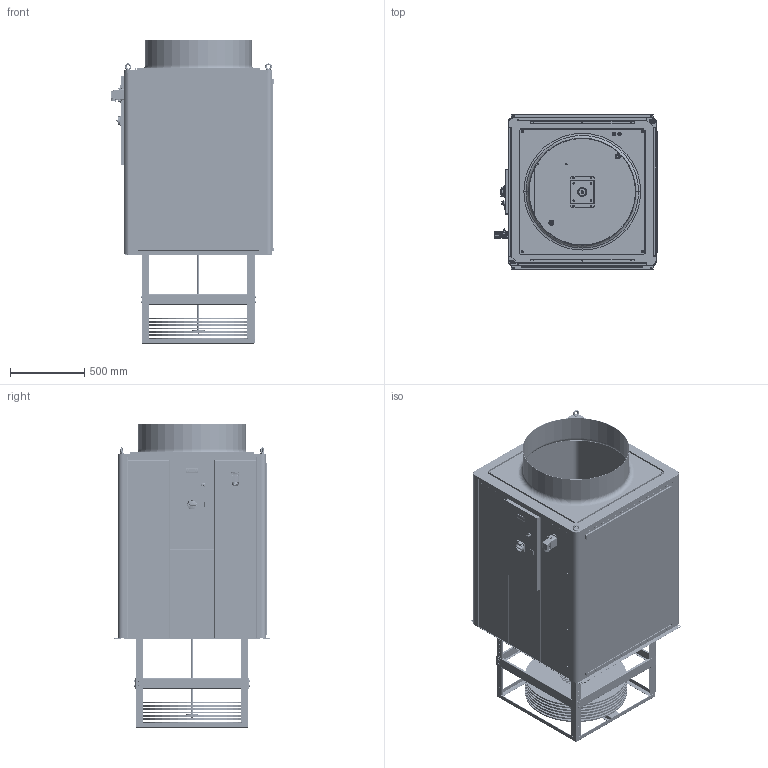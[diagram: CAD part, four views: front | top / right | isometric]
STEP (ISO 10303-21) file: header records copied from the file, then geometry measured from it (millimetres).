
FILE_DESCRIPTION (( 'STEP AP203' ), '1' );
FILE_NAME ('ECIK-350_EVAP_FLAT_R513A_REV00.STEP', '2026-03-24T12:48:25', ( '' ), ( '' ), 'SwSTEP 2.0', 'SolidWorks 2023', '' );
FILE_SCHEMA (( 'CONFIG_CONTROL_DESIGN' ));
Length unit declared in the file: millimetre
Products named in the file (59): VR-2D-00050_000; CR-K6-00005_001A; ICQ-10-__________2-1_1; 10J-8HP-FD-__5P-___________1; TE-EL-00007 - EW_971_230V.STEP; CR-K6-00003_001; 10J-8HP-ICQ-4HP-ICQ-3HP-1P-FB1.5p-____1.5P______-DCF-BK3P-_____1; VR-K9-00001_000; VR-K8-00002_000; 10J-8HP-ICQ-4HP-FD-____1mm-FB-KG-_____1; EV-AC-00038_000_FIGURINO; CR-K6-00005_001; CR-K6-00005_001C; 16800106.STEP_1; VR-K6-00004_001; 10J-8HP-ICQ-4HP-ICQ-3HP-1P-FB1.5p-_____1; ICQ-10-_______1; Gabbia telescopica ECIK 200-300-350 L=760_CONTRATTA; 10J-8HP-ICQ-4HP-ICQ-3HP-1P-1.5HP-_____________1; Tappo quadro elettrico_BK; CO-EL-00129; 10J-8HP-ICQ-4HP-ICQ-3HP-1P-______-1.5HP_1; 19.05____x55________.STEP_1; 25800359-______________x240__-____ ICQ-12-____.STEP; VR-K6-00001_001; ICQ-12J; ____710_________1; Parte1^ECIK-350   ICQ-12J; ____________2.0_______1; 25800360-______-304.STEP; DED965FB-6F17-44D8-8B5E-7FBD67AD56EC_3_BK; eyebolts gb_GB_FASTENER_SCREWS_FRS M10-N_1; plain washer chamfered grade a_iso_Washer ISO 7090 - 8; 10J-8HP-ICQ-4HP-ICQ-3HP-1P-FB1.5p-____2P______-DCF-BK3P-____ - ____ (2)_1; SELETTORE_NERO_BK; 8HP-FD-20________-IIII-III-II-FB-KG-_________1; 10J-8HP-ICQ-4HP-ICQ-3HP-1P-__________-1.5HP_1; hex nut style 1 gradeab_iso_ISO - 4032 - M8 - W - N; PG11_PARTE; VR-K6-00003_001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
Assembly tree (110 placements, depth 5):
  ECIK-350_EVAP_FLAT_R513A_REV00
    ICQ-12J
      10J-8HP-FD-__5P-___________1
        10J-8HP-FD-__5P________-500_____1
        8HP-FD-20________-IIII-III-II-FB-KG-_________1  x2
      ICQ-12-________
        25800359-______________x240__-____ ICQ-12-____.STEP
          25800361-______.STEP  x2
          25800360-______-304.STEP  x2
          16800106.STEP_1
          19.05____x55________.STEP_1
      10J-8HP-ICQ-4HP-ICQ-3HP-1P-FB1.5p-____1.5P______-DCF-BK3P-_____1
      10J-8HP-ICQ-4HP-ICQ-3HP-1P-FB1.5p-____2P______-DCF-BK3P-____ - ____ (2)_1
      10J-8HP-ICQ-4HP-ICQ-3HP-1P-1.5HP-_____________1  x2
      10J-8HP-ICQ-4HP-ICQ-3HP-1P-1.5HP-____________-0_1  x2
      10J-8HP-ICQ-4HP-ICQ-3HP-1P-______-1.5HP_1  x2
      10J-8HP-ICQ-4HP-ICQ-3HP-1P-FB1.5p-_____1
      10J-8HP-ICQ-4HP-ICQ-3HP-1P-__________-1.5HP_1
      eyebolts gb_GB_FASTENER_SCREWS_FRS M10-N_1  x2
      10J-8HP-ICQ-4HP-ICQ-3HP-1P-FB1.5p-____2P______-DCF-BK3P-______(____)_1
      10J-8HP-ICQ-4HP-FD-____1mm-FB-KG-_____1  x3
      10J-_________1  x2
      ____710_________1
      ____________2.0_______1
      ICQ-10-_______1
      ICQ-10-__________2-1_1
      ICQ-10-__________3_1
    VR-K8-00001_000
    VR-K6-00004_001
    VR-K6-00003_001
    VR-K6-00001_001
    VR-K6-00002_001
    QUADRO K6
      AEC1022F
      DED965FB-6F17-44D8-8B5E-7FBD67AD56EC_3_BK
      Tappo quadro elettrico_BK
      SELETTORE_NERO_BK
      TE-EL-00007 - EW_971_230V.STEP
      SE-RR-00025_000
    Gabbia telescopica ECIK 200-300-350 L=760_CONTRATTA
      CR-K6-00003_001  x4
      CR-K6-00005_001
        CR-K6-00005_001B  x4
        CR-K6-00005_001C
        CR-K6-00005_001A  x4
      CR-K6-00002_001  x4
    CR-AG-00021_000
    plain washer chamfered grade a_iso_Washer ISO 7090 - 8  x16
    hex nut style 1 gradeab_iso_ISO - 4032 - M8 - W - N  x8
    hex bolt gradeb_iso_ISO 4015 - M8 x 30 x 22-N  x8
    VR-K8-00002_000
    VR-K9-00001_000
    AGITATORE DISCO
    VR-2D-00050_000
    PG11_PARTE  x2
    CO-EL-00129
    CO-EL-00051
    Parte1^ECIK-350   ICQ-12J
    EV-AC-00038_000_FIGURINO
Bounding box: 1102.06 x 1051.6 x 2045 mm (x, y, z)
Volume: 80499748.6 mm3; surface area: 27607676.1 mm2
Topology: 142 solids, 245 shells, 6497 faces, 16160 edges, 10089 vertices
Faces by surface type: plane 3303, cylinder 2208, cone 468, bspline 362, torus 156
Entity records: 182966 total; most frequent: CARTESIAN_POINT 54264, ORIENTED_EDGE 24896, DIRECTION 24654, EDGE_CURVE 12797, AXIS2_PLACEMENT_3D 8670, VERTEX_POINT 8090, LINE 7314, VECTOR 7314
